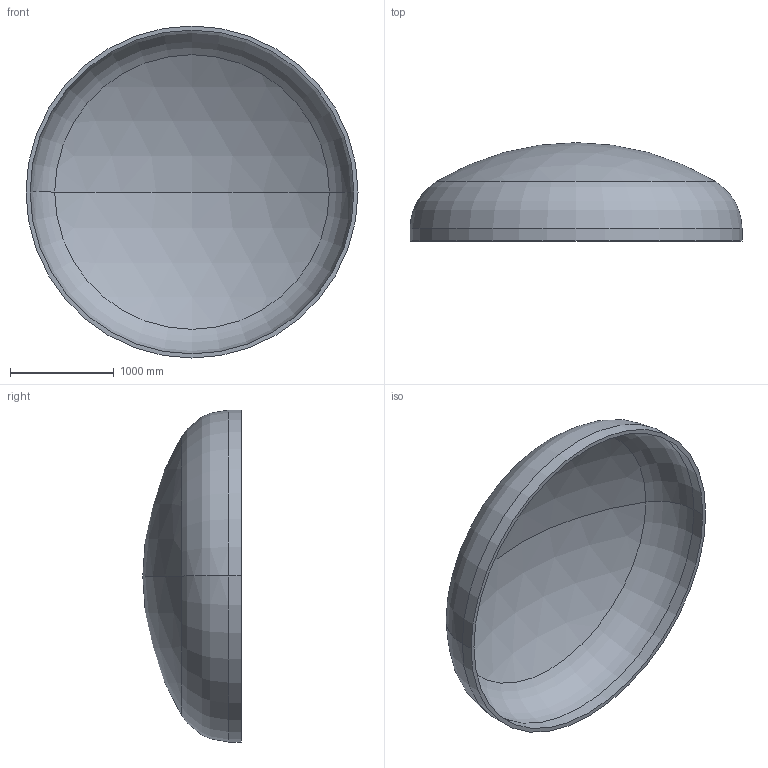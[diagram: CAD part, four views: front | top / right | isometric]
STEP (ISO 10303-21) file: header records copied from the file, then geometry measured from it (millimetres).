
FILE_DESCRIPTION (( 'STEP AP203' ), '1' );
FILE_NAME ('DIN 28013 Korbbogenform_-_Boden DIN 28013 - 3200 x 120 - I - s=40.step', '2016-07-01T18:36:24', ( '' ), ( '' ), 'SwSTEP 2.0', 'SolidWorks 2013', '' );
FILE_SCHEMA (( 'CONFIG_CONTROL_DESIGN' ));
Length unit declared in the file: millimetre
Products named in the file (1): DIN 28013 Korbbogenform_-_Boden DIN 28013 - 3200 x 120 - I - s=40
Bounding box: 3200 x 948 x 3200 mm (x, y, z)
Volume: 485408373.4 mm3; surface area: 24670858.3 mm2
Topology: 1 solids, 1 shells, 13 faces, 24 edges, 14 vertices
Faces by surface type: torus 4, cylinder 4, sphere 4, plane 1
Entity records: 407 total; most frequent: DIRECTION 72, CARTESIAN_POINT 52, ORIENTED_EDGE 48, AXIS2_PLACEMENT_3D 34, EDGE_CURVE 24, CIRCLE 20, EDGE_LOOP 14, VERTEX_POINT 14
